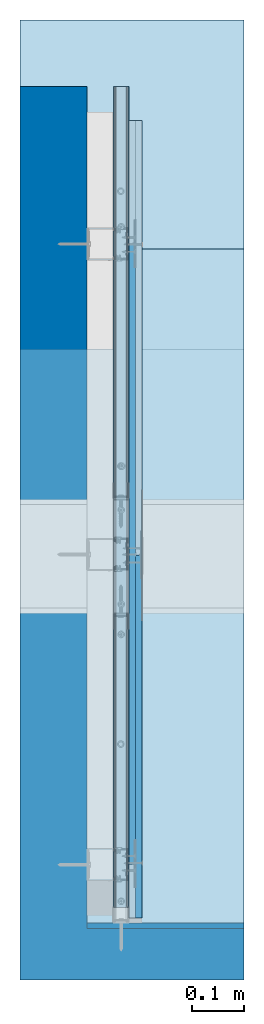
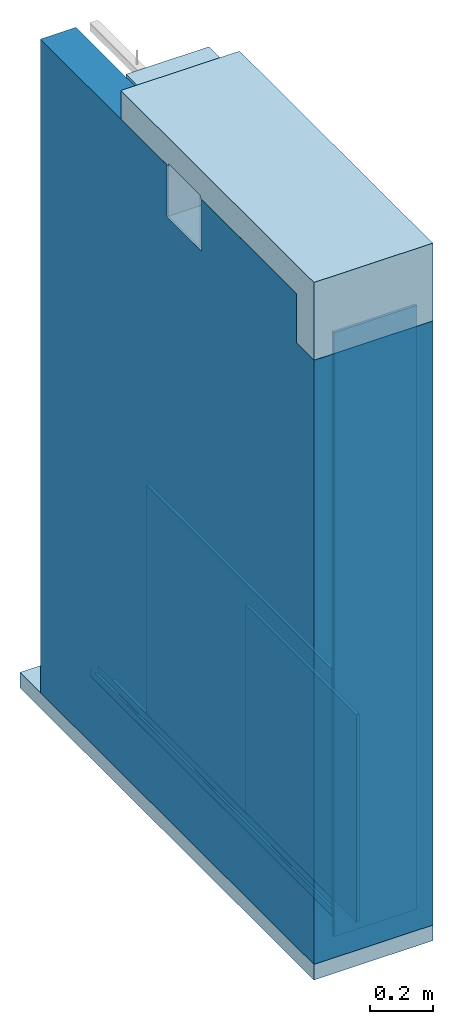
# One storey, part 1 of 67: 7 walls, 3 slabs.
"""IFC2X3 building model written with IfcOpenShell, lengths in millimetres."""

from ifc_helpers import new_model, si_unit, frame, origin_with_axes, place, context, subcontext, project, spatial, faceted_brep, material, type_object, element, save


model = new_model("IFC2X3")

# Units and contexts
model_context = context("Model", 3, world=origin_with_axes())
body_context = subcontext(model_context, "Body", "Model", "MODEL_VIEW")
ifc_project = project(units=[si_unit("LENGTHUNIT", "METRE", prefix="MILLI"), si_unit("AREAUNIT", "SQUARE_METRE"), si_unit("VOLUMEUNIT", "CUBIC_METRE")], contexts=[model_context])

# Site, building, storey
site_placement = place(None, frame((2152.14102611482, 674.9749105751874, 57.61556563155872), z_axis=(0.0, 0.0, 1.0), x_axis=(-1.1102230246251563e-16, 1.0, 0.0)))
site = spatial("IfcSite", under=ifc_project, at=site_placement, Name="Default Site", CompositionType="ELEMENT")
building_placement = place(site_placement, origin_with_axes())
building = spatial("IfcBuilding", under=site, at=building_placement, Name="Default Building", CompositionType="ELEMENT")
storey_placement = place(building_placement, origin_with_axes())
storey = spatial("IfcBuildingStorey", under=building, at=storey_placement, Name="Default Building Storey", CompositionType="ELEMENT", Elevation=57.61556563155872)

# Slabs
ifc_material_1 = material(Name="Concrete_02_1K")
slab_type_1 = type_object("IfcSlabType", Name="Beton", PredefinedType="FLOOR")
slab_1_placement = place(storey_placement, frame((3761.1571697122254, 2049.141026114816, -50.615566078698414), z_axis=(0.0, 0.0, 1.0), x_axis=(1.0, 0.0, 0.0)))
element("IfcSlab", 1, at=slab_1_placement, inside=storey, type_object=slab_type_1, material=ifc_material_1, Name="Beton", context=body_context, shape_type="Brep", body=[
    faceted_brep([(110.0000167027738, 103.00000000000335, -6.999999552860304), (110.0000167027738, 103.00000000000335, 52.99959201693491), (110.0000167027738, -330.0000000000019, 52.99959201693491), (110.0000167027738, -330.0000000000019, -6.999999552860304), (-1746.1320802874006, 103.00000000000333, 52.99959201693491), (-1746.1320802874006, 103.00000000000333, -6.999999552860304), (-1746.1320802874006, -330.00000000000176, -6.999999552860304), (-1746.1320802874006, -330.00000000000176, 52.99959201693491)], [[[0, 1, 2, 3]], [[4, 5, 6, 7]], [[1, 0, 5, 4]], [[2, 1, 4, 7]], [[3, 2, 7, 6]], [[0, 3, 6, 5]]]),
])
ifc_material_2 = material(Name="M04_Stone_Frost")
slab_type_2 = type_object("IfcSlabType", Name="Strop#2", PredefinedType="FLOOR")
slab_2_placement = place(storey_placement, frame((3683.040564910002, 2049.141026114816, 2517.3944339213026), z_axis=(0.0, 0.0, 1.0), x_axis=(1.0, 0.0, 0.0)))
element("IfcSlab", 2, at=slab_2_placement, inside=storey, type_object=slab_type_2, material=ifc_material_2, Name="Strop", context=body_context, shape_type="Brep", body=[
    faceted_brep([(-254.99998329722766, -27.000143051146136, 3.000000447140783), (-254.99998329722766, -27.000143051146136, 13.000000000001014), (-254.99998329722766, -330.0000000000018, 12.99999999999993), (-254.99998329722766, -330.0000000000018, 3.0000004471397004), (-1558.0154763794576, -27.000143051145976, 12.99999999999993), (-949.0154759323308, -27.000143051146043, 13.00000000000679), (-949.0154759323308, -27.000143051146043, 3.0000004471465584), (-1558.0154763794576, -27.000143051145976, 3.0000004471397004), (-1558.0154763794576, -27.000143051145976, -186.99999955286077), (-1568.0154759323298, -27.000143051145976, -186.99999955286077), (-1568.0154759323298, -27.000143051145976, 3.0000004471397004), (-1568.0154759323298, -27.000143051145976, 12.99999999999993), (-748.9999832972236, -27.000143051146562, 13.000000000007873), (-748.9999832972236, -330.00000000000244, 12.99999999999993), (-949.0154759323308, -330.0000000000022, 3.0000004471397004), (-1558.0154763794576, -330.00000000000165, 3.0000004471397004), (-1568.0154759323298, -330.00000000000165, 3.0000004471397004), (-1568.0154759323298, -330.00000000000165, 12.99999999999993), (-1558.0154763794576, -330.00000000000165, 12.99999999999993), (-1558.0154763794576, -330.00000000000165, -186.99999955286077), (-1568.0154759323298, -330.00000000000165, -186.99999955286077), (-949.0154759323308, -330.0000000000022, 12.99999999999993), (-748.9999832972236, -330.0000000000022, 3.0000004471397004), (-748.9999832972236, -27.000143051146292, 3.0000004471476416)], [[[0, 1, 2, 3]], [[4, 5, 6, 7, 8, 9, 10, 11]], [[1, 12, 13, 2]], [[7, 6, 14, 15]], [[11, 10, 16, 17]], [[18, 4, 11, 17]], [[8, 19, 20, 9]], [[7, 15, 19, 8]], [[16, 10, 9, 20]], [[15, 14, 21, 18, 17, 16, 20, 19]], [[2, 13, 22, 3]], [[22, 13, 12, 23]], [[21, 14, 6, 5]], [[21, 5, 4, 18]], [[22, 23, 0, 3]], [[0, 23, 12, 1]]]),
])
slab_type_3 = type_object("IfcSlabType", Name="Strop#3", PredefinedType="FLOOR")
slab_3_placement = place(storey_placement, frame((3683.040564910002, 2049.141026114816, 2527.3944334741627), z_axis=(0.0, 0.0, 1.0), x_axis=(1.0, 0.0, 0.0)))
element("IfcSlab", 3, at=slab_3_placement, inside=storey, type_object=slab_type_3, material=ifc_material_1, Name="Strop", context=body_context, shape_type="Brep", body=[
    faceted_brep([(-447.9999832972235, 103.00000000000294, -6.99999910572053), (-447.9999832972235, 103.00000000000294, 103.00000000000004), (-447.9999832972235, -330.0000000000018, 103.00000000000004), (-447.9999832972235, -330.0000000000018, 3.0000004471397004), (-447.9999832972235, -27.00014305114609, 3.0000004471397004), (-447.9999832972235, -27.00014305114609, -6.99999910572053), (-748.9999832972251, 103.00000000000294, -6.99999910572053), (-748.9999832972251, 103.00000000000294, 3.0000004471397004), (-949.0154759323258, 103.00000000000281, 3.0000004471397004), (-949.0154759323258, 103.00000000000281, -6.999999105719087), (-1558.0154763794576, 103.0000000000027, -6.999999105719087), (-1558.0154763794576, 103.0000000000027, -196.99999910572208), (-1668.0154754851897, 103.00000000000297, -196.99999910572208), (-1668.0154754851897, 103.00000000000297, 103.00000000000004), (-1668.0154754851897, -330.0000000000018, 103.00000000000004), (-1668.0154754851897, -330.0000000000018, -196.99999910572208), (-1568.0154759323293, -330.0000000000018, -196.99999910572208), (-1568.0154759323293, -330.0000000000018, 3.0000004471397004), (-1568.0154759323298, -27.000143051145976, -196.999999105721), (-1558.0154763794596, -27.000143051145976, -196.999999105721), (-1568.0154759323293, -27.000143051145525, 3.0000004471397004), (-949.0154759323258, -27.000143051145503, 3.0000004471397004), (-748.9999832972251, -27.00014305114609, 3.0000004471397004), (-748.9999832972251, -27.00014305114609, -6.99999910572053), (-949.0154759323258, -27.000143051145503, -6.999999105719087), (-1558.0154763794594, -27.000143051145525, -6.999999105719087), (-1568.0154759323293, -27.000143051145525, -6.999999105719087)], [[[0, 1, 2, 3, 4, 5]], [[1, 0, 6, 7, 8, 9, 10, 11, 12, 13]], [[1, 13, 14, 2]], [[2, 14, 15, 16, 17, 3]], [[13, 12, 15, 14]], [[18, 16, 15, 12, 11, 19]], [[17, 20, 21, 8, 7, 22, 4, 3]], [[0, 5, 23, 6]], [[4, 22, 23, 5]], [[22, 7, 6, 23]], [[10, 9, 24, 25]], [[8, 21, 24, 9]], [[21, 20, 26, 25, 24]], [[16, 18, 26, 20, 17]], [[10, 25, 19, 11]], [[26, 18, 19, 25]]]),
])

# Walls
ifc_material_3 = material(Name="Undefined7")
wall_type_1 = type_object("IfcWallType", Name="Płyta gipsowo-kartonowa RIGIPS PRO (4PRO™)#4", PredefinedType="NOTDEFINED")
wall_1_placement = place(storey_placement, frame((2835.5063704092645, 1928.6800775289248, 1062.3900398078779), z_axis=(0.0, 0.0, 1.0), x_axis=(-1.0, 6.389333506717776e-13, 0.0)))
element("IfcWall", 4, at=wall_1_placement, inside=storey, type_object=wall_type_1, material=ifc_material_3, Name="Płyta gipsowo-kartonowa RIGIPS PRO (4PRO™)", context=body_context, shape_type="Brep", body=[
    faceted_brep([(700.4768892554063, 12.500000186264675, -250.0), (700.4768892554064, -3.9046383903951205e-10, -250.0), (700.4768892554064, -3.872152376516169e-10, -1050.001621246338), (700.4768892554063, 12.500000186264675, -1050.001621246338), (45.00000178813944, 12.500000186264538, -250.0), (41.000001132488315, 11.500000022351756, -250.0), (1.0000000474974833, 11.500000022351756, -250.0), (0.7411809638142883, 11.465925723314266, -250.0), (0.5000000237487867, 11.366025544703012, -250.0), (0.2928932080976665, 11.20710652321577, -250.0), (0.13397459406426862, 10.999999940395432, -250.0), (0.03407417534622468, 10.758819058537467, -250.0), (-2.887645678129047e-12, 10.499999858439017, -250.0), (0.0, 0.0, -250.0), (45.00000178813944, 12.500000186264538, -1050.001621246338), (41.000001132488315, 11.500000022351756, -1050.001621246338), (1.0000000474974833, 11.500000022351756, -1050.001621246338), (0.7411809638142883, 11.465925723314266, -1050.001621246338), (0.5000000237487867, 11.366025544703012, -1050.001621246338), (0.2928932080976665, 11.20710652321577, -1050.001621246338), (0.13397459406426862, 10.999999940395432, -1050.001621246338), (0.03407417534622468, 10.758819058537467, -1050.001621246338), (-2.887645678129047e-12, 10.499999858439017, -1050.001621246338), (0.0, 0.0, -1050.001621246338)], [[[0, 1, 2, 3]], [[0, 4, 5, 6, 7, 8, 9, 10, 11, 12, 13, 1]], [[3, 14, 4, 0]], [[5, 4, 14, 15]], [[6, 5, 15, 16]], [[7, 6, 16, 17]], [[8, 7, 17, 18]], [[9, 8, 18, 19]], [[10, 9, 19, 20]], [[11, 10, 20, 21]], [[12, 11, 21, 22]], [[13, 12, 22, 23]], [[2, 1, 13, 23]], [[14, 3, 2, 23, 22, 21, 20, 19, 18, 17, 16, 15]]]),
])
ifc_material_4 = material(Name="Undefined9")
wall_type_2 = type_object("IfcWallType", Name="Profil RIGIPS UD 30 GypSerra®/Ultrastil®", PredefinedType="NOTDEFINED")
wall_2_placement = place(storey_placement, frame((5048.786508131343, 3440.7922799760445, -108.59097421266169), z_axis=(-6.092619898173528e-14, -6.85815824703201e-13, 1.0), x_axis=(-1.0, -2.013442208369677e-15, -6.092619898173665e-14)))
element("IfcWall", 5, at=wall_2_placement, inside=storey, type_object=wall_type_2, material=ifc_material_4, Name="Profil RIGIPS UD 30 GypSerra®/Ultrastil®", context=body_context, shape_type="Brep", body=[
    faceted_brep([(2893.189556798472, 1469.9159860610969, 140.97499847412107), (2893.189556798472, 1469.366073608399, 140.97499847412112), (2893.18955679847, 1469.3660736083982, 114.77500200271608), (2893.1895567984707, 1469.3758487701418, 114.6498546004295), (2893.1895567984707, 1469.405174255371, 114.52778428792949), (2893.1895567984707, 1469.4532155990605, 114.4118085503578), (2893.1895567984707, 1469.518780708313, 114.30477350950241), (2893.1895567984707, 1469.6003198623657, 114.20931667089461), (2893.1895567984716, 1469.6958065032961, 114.1277849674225), (2893.1895567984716, 1469.8028564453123, 114.06219750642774), (2893.1895567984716, 1469.9188470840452, 114.01415616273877), (2893.1895567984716, 1470.0409173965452, 113.9848530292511), (2893.1895567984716, 1470.1660871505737, 113.97500336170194), (2893.1895567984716, 1472.0159769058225, 113.97500336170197), (2893.1895567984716, 1472.1635580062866, 113.98871988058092), (2893.1895567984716, 1472.3060131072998, 114.02940750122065), (2893.1895567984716, 1472.4385738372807, 114.09565806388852), (2893.1895567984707, 1472.5565910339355, 114.18521404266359), (2893.1895567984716, 1472.656011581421, 114.29499834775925), (2893.1895567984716, 1473.6760854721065, 115.65499752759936), (2893.1895567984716, 1473.7755060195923, 115.76478183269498), (2893.1895567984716, 1473.8935232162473, 115.85433781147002), (2893.189556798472, 1474.0260839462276, 115.92059582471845), (2893.189556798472, 1474.1685390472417, 115.96128344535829), (2893.189556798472, 1474.316000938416, 115.97499996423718), (2893.189556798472, 1493.6159849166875, 115.97499996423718), (2893.189556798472, 1493.7635660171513, 115.96128344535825), (2893.189556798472, 1493.9060211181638, 115.92059582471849), (2893.189556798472, 1494.0385818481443, 115.85433781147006), (2893.189556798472, 1494.1565990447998, 115.76478183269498), (2893.189556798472, 1494.2560195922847, 115.65499752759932), (2893.1895567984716, 1495.2759742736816, 114.29499834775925), (2893.1895567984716, 1495.3755140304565, 114.18521404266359), (2893.1895567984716, 1495.4935312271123, 114.09565806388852), (2893.1895567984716, 1495.6260919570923, 114.02940750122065), (2893.1895567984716, 1495.7685470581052, 113.98871988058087), (2893.1895567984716, 1495.9160089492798, 113.97500336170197), (2893.1895567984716, 1497.7660179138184, 113.97500336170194), (2893.1895567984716, 1497.8911876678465, 113.98485302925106), (2893.1895567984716, 1498.0132579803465, 114.01415616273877), (2893.1895567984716, 1498.1292486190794, 114.06219750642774), (2893.1895567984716, 1498.2362985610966, 114.12778496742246), (2893.1895567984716, 1498.3316659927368, 114.2093166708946), (2893.1895567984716, 1498.4132051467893, 114.30477350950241), (2893.1895567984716, 1498.4788894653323, 114.4118085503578), (2893.1895567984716, 1498.5269308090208, 114.5277842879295), (2893.1895567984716, 1498.5561370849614, 114.6498546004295), (2893.189556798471, 1498.5660314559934, 114.77500200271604), (2893.189556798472, 1498.5660314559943, 140.97499847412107), (2893.189556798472, 1498.0159997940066, 140.97499847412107), (2893.189556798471, 1498.0159997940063, 114.77500200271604), (2893.1895567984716, 1498.012900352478, 114.73589390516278), (2893.1895567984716, 1498.0038404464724, 114.69774693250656), (2893.1895567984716, 1497.9888200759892, 114.66149985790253), (2893.1895567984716, 1497.9683160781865, 114.62805420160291), (2893.1895567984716, 1497.942805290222, 114.59822207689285), (2893.1895567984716, 1497.9130029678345, 114.57274854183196), (2893.1895567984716, 1497.8795051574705, 114.55225199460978), (2893.1895567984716, 1497.843265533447, 114.53723907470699), (2893.1895567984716, 1497.8051185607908, 114.5280748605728), (2893.1895567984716, 1497.7660179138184, 114.52499777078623), (2893.1895567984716, 1495.9160089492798, 114.52499777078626), (2893.1895567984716, 1495.8698749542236, 114.52928930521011), (2893.1895567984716, 1495.825409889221, 114.54199999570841), (2893.1895567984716, 1495.784044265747, 114.56270515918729), (2893.1895567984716, 1495.747089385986, 114.59068953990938), (2893.1895567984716, 1495.715975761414, 114.6249994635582), (2893.189556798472, 1494.6960210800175, 115.98499864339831), (2893.189556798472, 1494.5281744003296, 116.17025732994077), (2893.1895567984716, 1494.3289756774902, 116.32138490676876), (2893.1895567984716, 1494.1053390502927, 116.43319576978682), (2893.1895567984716, 1493.8650131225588, 116.50185286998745), (2893.1895567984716, 1493.6159849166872, 116.52500182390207), (2893.189556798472, 1474.3160009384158, 116.52500182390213), (2893.189556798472, 1474.067091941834, 116.50185286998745), (2893.189556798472, 1473.8266468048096, 116.43319576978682), (2893.189556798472, 1473.6031293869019, 116.32138490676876), (2893.189556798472, 1473.4039306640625, 116.17025732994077), (2893.189556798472, 1473.2360839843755, 115.98499864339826), (2893.1895567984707, 1472.2160100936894, 114.6249994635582), (2893.1895567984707, 1472.1848964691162, 114.59068953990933), (2893.1895567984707, 1472.148060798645, 114.56270515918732), (2893.1895567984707, 1472.1066951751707, 114.54199999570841), (2893.1895567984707, 1472.0621109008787, 114.52928930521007), (2893.1895567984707, 1472.0159769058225, 114.52499777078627), (2893.1895567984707, 1470.1660871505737, 114.52499777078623), (2893.1895567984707, 1470.1268672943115, 114.5280748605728), (2893.1895567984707, 1470.088720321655, 114.53723907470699), (2893.1895567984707, 1470.0524806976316, 114.55225199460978), (2893.1895567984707, 1470.0191020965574, 114.57274854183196), (2893.1895567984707, 1469.9892997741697, 114.59822207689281), (2893.1895567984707, 1469.9637889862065, 114.6280542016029), (2893.1895567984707, 1469.943284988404, 114.66149985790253), (2893.1895567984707, 1469.9282646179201, 114.69774693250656), (2893.1895567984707, 1469.9190855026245, 114.73589390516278), (2893.18955679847, 1469.915986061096, 114.77500200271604), (1306.0656785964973, 1469.3660736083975, 114.77500200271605), (1306.0656785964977, 1469.3660736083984, 140.9749984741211), (1306.0656785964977, 1469.9159860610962, 140.97499847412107), (1306.0656785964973, 1469.9159860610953, 114.77500200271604), (1306.0656785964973, 1469.9190855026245, 114.73589390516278), (1306.0656785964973, 1469.9282646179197, 114.69774693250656), (1306.0656785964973, 1469.9432849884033, 114.66149985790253), (1306.0656785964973, 1469.963788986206, 114.62805420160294), (1306.0656785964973, 1469.989299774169, 114.59822207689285), (1306.0656785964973, 1470.0191020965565, 114.57274854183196), (1306.0656785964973, 1470.0524806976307, 114.55225199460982), (1306.0656785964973, 1470.0887203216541, 114.53723907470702), (1306.0656785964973, 1470.1268672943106, 114.52807486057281), (1306.0656785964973, 1470.1660871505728, 114.5249977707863), (1306.0656785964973, 1472.0159769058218, 114.52499777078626), (1306.0656785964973, 1472.062110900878, 114.52928930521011), (1306.0656785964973, 1472.10669517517, 114.54199999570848), (1306.0656785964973, 1472.148060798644, 114.56270515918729), (1306.0656785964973, 1472.1848964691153, 114.59068953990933), (1306.0656785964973, 1472.216010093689, 114.6249994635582), (1306.0656785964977, 1473.236083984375, 115.98499864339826), (1306.0656785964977, 1473.4039306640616, 116.17025732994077), (1306.0656785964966, 1473.6031293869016, 116.3213849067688), (1306.0656785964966, 1473.8266468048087, 116.43319576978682), (1306.0656785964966, 1474.0670919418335, 116.50185286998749), (1306.0656785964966, 1474.3160009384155, 116.52500182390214), (1306.0656785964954, 1493.615984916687, 116.52500182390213), (1306.0656785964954, 1493.8650131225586, 116.50185286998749), (1306.0656785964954, 1494.105339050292, 116.43319576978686), (1306.0656785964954, 1494.32897567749, 116.3213849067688), (1306.0656785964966, 1494.5281744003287, 116.17025732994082), (1306.0656785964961, 1494.696021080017, 115.98499864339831), (1306.0656785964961, 1495.7159757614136, 114.62499946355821), (1306.0656785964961, 1495.7470893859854, 114.59068953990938), (1306.0656785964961, 1495.7840442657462, 114.56270515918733), (1306.0656785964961, 1495.8254098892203, 114.54199999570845), (1306.0656785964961, 1495.8698749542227, 114.52928930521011), (1306.0656785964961, 1495.9160089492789, 114.5249977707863), (1306.0656785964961, 1497.7660179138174, 114.52499777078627), (1306.0656785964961, 1497.80511856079, 114.5280748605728), (1306.0656785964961, 1497.8432655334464, 114.53723907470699), (1306.0656785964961, 1497.8795051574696, 114.55225199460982), (1306.0656785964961, 1497.9130029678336, 114.57274854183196), (1306.0656785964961, 1497.9428052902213, 114.59822207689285), (1306.0656785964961, 1497.968316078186, 114.62805420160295), (1306.0656785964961, 1497.9888200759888, 114.66149985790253), (1306.0656785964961, 1498.0038404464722, 114.69774693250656), (1306.0656785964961, 1498.0129003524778, 114.73589390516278), (1306.0656785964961, 1498.0159997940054, 114.77500200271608), (1306.0656785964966, 1498.0159997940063, 140.97499847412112), (1306.0656785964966, 1498.5660314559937, 140.97499847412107), (1306.0656785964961, 1498.5660314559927, 114.77500200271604), (1306.0656785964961, 1498.556137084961, 114.64985460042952), (1306.0656785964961, 1498.5269308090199, 114.52778428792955), (1306.0656785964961, 1498.478889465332, 114.41180855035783), (1306.0656785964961, 1498.4132051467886, 114.30477350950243), (1306.0656785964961, 1498.3316659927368, 114.20931667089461), (1306.0656785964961, 1498.236298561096, 114.12778496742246), (1306.0656785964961, 1498.1292486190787, 114.06219750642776), (1306.0656785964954, 1498.0132579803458, 114.01415616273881), (1306.0656785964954, 1497.8911876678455, 113.9848530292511), (1306.0656785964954, 1497.7660179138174, 113.97500336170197), (1306.0656785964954, 1495.9160089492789, 113.97500336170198), (1306.0656785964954, 1495.7685470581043, 113.98871988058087), (1306.0656785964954, 1495.6260919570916, 114.02940750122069), (1306.0656785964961, 1495.4935312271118, 114.09565806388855), (1306.0656785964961, 1495.3755140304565, 114.18521404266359), (1306.0656785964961, 1495.275974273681, 114.29499834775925), (1306.0656785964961, 1494.2560195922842, 115.65499752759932), (1306.0656785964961, 1494.1565990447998, 115.76478183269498), (1306.0656785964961, 1494.0385818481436, 115.85433781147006), (1306.0656785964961, 1493.9060211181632, 115.92059582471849), (1306.0656785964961, 1493.7635660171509, 115.96128344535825), (1306.0656785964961, 1493.615984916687, 115.9749999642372), (1306.0656785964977, 1474.3160009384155, 115.9749999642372), (1306.0656785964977, 1474.1685390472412, 115.96128344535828), (1306.0656785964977, 1474.0260839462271, 115.92059582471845), (1306.0656785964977, 1473.8935232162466, 115.85433781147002), (1306.0656785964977, 1473.7755060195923, 115.764781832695), (1306.0656785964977, 1473.676085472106, 115.65499752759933), (1306.0656785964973, 1472.65601158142, 114.29499834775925), (1306.0656785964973, 1472.5565910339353, 114.18521404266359), (1306.0656785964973, 1472.43857383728, 114.09565806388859), (1306.0656785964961, 1472.306013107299, 114.02940750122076), (1306.0656785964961, 1472.1635580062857, 113.98871988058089), (1306.0656785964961, 1472.0159769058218, 113.97500336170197), (1306.0656785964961, 1470.1660871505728, 113.97500336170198), (1306.0656785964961, 1470.0409173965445, 113.98485302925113), (1306.0656785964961, 1469.9188470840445, 114.01415616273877), (1306.0656785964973, 1469.8028564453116, 114.06219750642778), (1306.0656785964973, 1469.695806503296, 114.12778496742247), (1306.0656785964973, 1469.6003198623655, 114.20931667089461), (1306.0656785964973, 1469.5187807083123, 114.30477350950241), (1306.0656785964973, 1469.45321559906, 114.4118085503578), (1306.0656785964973, 1469.4051742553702, 114.52778428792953), (1306.0656785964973, 1469.3758487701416, 114.64985460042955)], [[[0, 1, 2, 3, 4, 5, 6, 7, 8, 9, 10, 11, 12, 13, 14, 15, 16, 17, 18, 19, 20, 21, 22, 23, 24, 25, 26, 27, 28, 29, 30, 31, 32, 33, 34, 35, 36, 37, 38, 39, 40, 41, 42, 43, 44, 45, 46, 47, 48, 49, 50, 51, 52, 53, 54, 55, 56, 57, 58, 59, 60, 61, 62, 63, 64, 65, 66, 67, 68, 69, 70, 71, 72, 73, 74, 75, 76, 77, 78, 79, 80, 81, 82, 83, 84, 85, 86, 87, 88, 89, 90, 91, 92, 93, 94, 95]], [[96, 97, 98, 99, 100, 101, 102, 103, 104, 105, 106, 107, 108, 109, 110, 111, 112, 113, 114, 115, 116, 117, 118, 119, 120, 121, 122, 123, 124, 125, 126, 127, 128, 129, 130, 131, 132, 133, 134, 135, 136, 137, 138, 139, 140, 141, 142, 143, 144, 145, 146, 147, 148, 149, 150, 151, 152, 153, 154, 155, 156, 157, 158, 159, 160, 161, 162, 163, 164, 165, 166, 167, 168, 169, 170, 171, 172, 173, 174, 175, 176, 177, 178, 179, 180, 181, 182, 183, 184, 185, 186, 187, 188, 189, 190, 191]], [[23, 171, 170, 24]], [[22, 172, 171, 23]], [[175, 174, 20, 19]], [[172, 22, 21, 173]], [[20, 174, 173, 21]], [[24, 170, 169, 25]], [[29, 165, 164, 30]], [[165, 29, 28, 166]], [[27, 167, 166, 28]], [[169, 168, 26, 25]], [[26, 168, 167, 27]], [[30, 164, 163, 31]], [[35, 159, 158, 36]], [[34, 160, 159, 35]], [[33, 32, 162, 161]], [[161, 160, 34, 33]], [[163, 162, 32, 31]], [[36, 158, 157, 37]], [[46, 45, 149, 148]], [[148, 147, 47, 46]], [[44, 150, 149, 45]], [[43, 42, 152, 151]], [[151, 150, 44, 43]], [[41, 40, 154, 153]], [[153, 152, 42, 41]], [[39, 155, 154, 40]], [[38, 37, 157, 156]], [[156, 155, 39, 38]], [[47, 147, 146, 48]], [[48, 146, 145, 49]], [[49, 145, 144, 50]], [[134, 60, 59, 135]], [[58, 136, 135, 59]], [[57, 137, 136, 58]], [[137, 57, 56, 138]], [[55, 139, 138, 56]], [[139, 55, 54, 140]], [[53, 141, 140, 54]], [[52, 142, 141, 53]], [[142, 52, 51, 143]], [[50, 144, 143, 51]], [[60, 134, 133, 61]], [[65, 129, 128, 66]], [[129, 65, 64, 130]], [[63, 131, 130, 64]], [[133, 132, 62, 61]], [[62, 132, 131, 63]], [[66, 128, 127, 67]], [[71, 123, 122, 72]], [[70, 69, 125, 124]], [[124, 123, 71, 70]], [[68, 126, 125, 69]], [[127, 126, 68, 67]], [[72, 122, 121, 73]], [[77, 117, 116, 78]], [[76, 118, 117, 77]], [[75, 74, 120, 119]], [[119, 118, 76, 75]], [[121, 120, 74, 73]], [[78, 116, 115, 79]], [[83, 111, 110, 84]], [[82, 112, 111, 83]], [[115, 114, 80, 79]], [[112, 82, 81, 113]], [[80, 114, 113, 81]], [[84, 110, 109, 85]], [[99, 95, 94, 100]], [[93, 101, 100, 94]], [[92, 102, 101, 93]], [[102, 92, 91, 103]], [[90, 104, 103, 91]], [[104, 90, 89, 105]], [[88, 106, 105, 89]], [[87, 107, 106, 88]], [[107, 87, 86, 108]], [[85, 109, 108, 86]], [[95, 99, 98, 0]], [[0, 98, 97, 1]], [[1, 97, 96, 2]], [[11, 10, 184, 183]], [[183, 182, 12, 11]], [[9, 185, 184, 10]], [[6, 5, 189, 188]], [[7, 6, 188, 187]], [[8, 7, 187, 186]], [[186, 185, 9, 8]], [[4, 190, 189, 5]], [[3, 2, 96, 191]], [[191, 190, 4, 3]], [[12, 182, 181, 13]], [[17, 177, 176, 18]], [[16, 15, 179, 178]], [[178, 177, 17, 16]], [[14, 180, 179, 15]], [[181, 180, 14, 13]], [[18, 176, 175, 19]]]),
])
ifc_material_5 = material(Name="Undefined13")
wall_type_3 = type_object("IfcWallType", Name="Taśma uszczelniająca piankowa RIGIPS#3", PredefinedType="NOTDEFINED")
wall_3_placement = place(storey_placement, frame((5610.165077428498, 3440.792279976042, -108.59097421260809), z_axis=(-6.09261989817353e-14, -6.85815824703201e-13, 1.0), x_axis=(-1.0, -2.0134422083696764e-15, -6.092619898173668e-14)))
element("IfcWall", 6, at=wall_3_placement, inside=storey, type_object=wall_type_3, material=ifc_material_5, Name="Taśma uszczelniająca piankowa RIGIPS", context=body_context, shape_type="Brep", body=[
    faceted_brep([(1867.1244382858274, 1498.965978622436, 113.97500336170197), (1867.1244382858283, 1498.9659786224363, 110.9749972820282), (1867.1244382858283, 1468.966007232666, 110.9749972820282), (1867.1244382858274, 1468.9660072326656, 113.97500336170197), (3487.5264937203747, 1498.9659786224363, 110.9749972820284), (3487.5264937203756, 1498.965978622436, 113.97500336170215), (3487.5264937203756, 1468.9660072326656, 113.97500336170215), (3487.5264937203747, 1468.9660072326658, 110.9749972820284)], [[[0, 1, 2, 3]], [[4, 5, 6, 7]], [[5, 0, 3, 6]], [[6, 3, 2, 7]], [[7, 2, 1, 4]], [[4, 1, 0, 5]]]),
])
wall_type_4 = type_object("IfcWallType", Name="Płyta gipsowo-kartonowa RIGIPS PRO (4PRO™)#2", PredefinedType="NOTDEFINED")
wall_4_placement = place(storey_placement, frame((2222.429648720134, 1941.1800775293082, 1162.3900398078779), z_axis=(0.0, 0.0, 1.0), x_axis=(1.0, 0.0, 0.0)))
element("IfcWall", 7, at=wall_4_placement, inside=storey, type_object=wall_type_4, material=ifc_material_3, Name="Płyta gipsowo-kartonowa RIGIPS PRO (4PRO™)", context=body_context, shape_type="Brep", body=[
    faceted_brep([(1215.7750066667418, -10.758819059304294, -1150.001525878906), (1215.7750066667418, -10.758819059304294, -250.0), (1215.6751092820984, -10.99999994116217, -250.0), (1215.6751092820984, -10.99999994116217, -1150.001525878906), (1215.309017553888, -11.36602554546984, -1150.001525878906), (1215.516203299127, -11.207106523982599, -1150.001525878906), (1215.516203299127, -11.207106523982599, -250.0), (1215.309017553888, -11.36602554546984, -250.0), (1170.809024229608, -12.500000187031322, -1150.001525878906), (1174.8090919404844, -11.500000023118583, -1150.001525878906), (1174.8090919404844, -11.500000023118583, -250.0), (1170.809024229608, -12.500000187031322, -250.0), (1214.8090537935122, -11.500000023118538, -1150.001525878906), (1215.067857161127, -11.465925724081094, -1150.001525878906), (1215.067857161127, -11.465925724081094, -250.0), (1214.8090537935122, -11.500000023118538, -250.0), (1215.8091005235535, -10.499999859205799, -1150.001525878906), (1215.8091005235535, -10.499999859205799, -250.0), (1215.8091005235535, -7.668052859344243e-10, -1150.001525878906), (1215.8091005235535, -7.668052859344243e-10, -250.0), (60.96893029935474, -12.50000018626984, -1150.0015258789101), (60.96893029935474, -12.50000018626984, -250.00000000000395), (56.96892964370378, -11.500000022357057, -1150.0015258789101), (16.968928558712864, -11.500000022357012, -1150.0015258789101), (16.710109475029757, -11.465925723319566, -1150.0015258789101), (16.468928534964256, -11.366025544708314, -1150.0015258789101), (16.261821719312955, -11.207106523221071, -1150.0015258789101), (16.102903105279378, -10.999999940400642, -1150.0015258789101), (16.003002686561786, -10.758819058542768, -1150.0015258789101), (15.968928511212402, -10.499999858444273, -1150.0015258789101), (15.968928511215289, -5.278977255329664e-12, -1150.0015258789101), (16.968928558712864, -11.500000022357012, -250.00000000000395), (56.96892964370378, -11.500000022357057, -250.00000000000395), (15.968928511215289, -5.278977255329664e-12, -250.00000000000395), (15.968928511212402, -10.499999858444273, -250.00000000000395), (16.003002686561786, -10.758819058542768, -250.00000000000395), (16.102903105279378, -10.999999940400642, -250.00000000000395), (16.261821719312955, -11.207106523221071, -250.00000000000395), (16.468928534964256, -11.366025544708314, -250.00000000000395), (16.710109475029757, -11.465925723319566, -250.00000000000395)], [[[0, 1, 2, 3]], [[4, 5, 6, 7]], [[8, 9, 10, 11]], [[12, 13, 14, 15]], [[3, 2, 6, 5]], [[13, 4, 7, 14]], [[9, 12, 15, 10]], [[16, 17, 1, 0]], [[18, 19, 17, 16]], [[20, 8, 11, 21]], [[4, 13, 12, 9, 22, 23, 24, 25, 26, 27, 28, 29, 30, 18, 16, 0, 3, 5]], [[31, 32, 21, 11, 10, 15, 14, 7, 6, 2, 1, 17, 19, 33, 34, 35, 36, 37, 38, 39]], [[22, 9, 8, 20]], [[33, 19, 18, 30]], [[26, 25, 38, 37]], [[26, 37, 36, 27]], [[23, 22, 32, 31]], [[29, 34, 33, 30]], [[25, 24, 39, 38]], [[28, 35, 34, 29]], [[27, 36, 35, 28]], [[24, 23, 31, 39]], [[22, 20, 21, 32]]]),
])
wall_type_5 = type_object("IfcWallType", Name="Ściana#1", PredefinedType="NOTDEFINED")
wall_5_placement = place(storey_placement, frame((2128.025088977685, 2049.141026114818, 2536.3944176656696), z_axis=(-1.0, 7.216449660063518e-16, 8.326672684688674e-17), x_axis=(8.326672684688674e-17, -4.622231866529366e-32, 1.0)))
element("IfcWall", 8, at=wall_5_placement, inside=storey, type_object=wall_type_5, material=ifc_material_2, Name="Ściana", context=body_context, shape_type="Brep", body=[
    faceted_brep([(-205.99998329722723, -27.00014305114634, 3.0000004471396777), (-205.99998329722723, -27.00014305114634, 12.99999999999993), (-205.99998329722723, -330.0000000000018, 12.999999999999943), (-205.99998329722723, -330.0000000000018, 3.0000004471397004), (-2534.0103917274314, -27.00014305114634, 12.99999999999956), (-2534.0103917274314, -27.00014305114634, 3.0000004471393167), (-2534.0103917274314, -330.0000000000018, 3.0000004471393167), (-2534.0103917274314, -330.0000000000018, 12.99999999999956)], [[[0, 1, 2, 3]], [[4, 5, 6, 7]], [[1, 0, 5, 4]], [[2, 1, 4, 7]], [[3, 2, 7, 6]], [[0, 3, 6, 5]]]),
])
ifc_material_6 = material(Name="M03_Pewter_Shine")
wall_type_6 = type_object("IfcWallType", Name="Ściana#3", PredefinedType="NOTDEFINED")
wall_6_placement = place(storey_placement, frame((2118.0250894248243, 2049.141026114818, 2536.39441766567), z_axis=(-1.0, 7.216449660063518e-16, 8.326672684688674e-17), x_axis=(8.326672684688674e-17, -4.622231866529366e-32, 1.0)))
element("IfcWall", 9, at=wall_6_placement, inside=storey, type_object=wall_type_6, material=ifc_material_6, Name="Ściana", context=body_context, shape_type="Brep", body=[
    faceted_brep([(-205.9999832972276, 103.00000000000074, -6.999999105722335), (-205.9999832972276, 103.00000000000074, 102.99999999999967), (-205.9999832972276, -330.00000000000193, 103.00000000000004), (-205.9999832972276, -330.0000000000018, 3.0000004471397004), (-205.99998329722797, -27.000143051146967, 3.0000004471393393), (-205.99998329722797, -27.000143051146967, -6.999999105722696), (-2534.0103917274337, 103.00000000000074, 102.99999999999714), (-2534.0103917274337, 103.00000000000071, 3.000000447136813), (-2534.010391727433, -27.000143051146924, 3.0000004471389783), (-2534.0103917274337, -330.0000000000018, 3.000000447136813), (-2534.0103917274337, -330.00000000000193, 102.99999999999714), (-2534.010391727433, -27.00014305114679, -1625.0155268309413), (-2534.010391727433, 103.00000000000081, -1625.0155268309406), (-15.999983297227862, 103.00000000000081, -1625.0155268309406), (-15.999983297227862, -27.00014305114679, -1625.015526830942), (-15.999983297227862, -27.000143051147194, -826.0154917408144), (-215.99998329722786, -27.000143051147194, -826.0154917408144), (-215.99998329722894, -27.000143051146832, -605.9999995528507), (-15.999983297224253, -27.00014305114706, -605.9999995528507), (-15.999983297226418, -27.000143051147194, -6.999999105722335), (-15.999983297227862, 103.0000000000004, -826.0154917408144), (-15.999983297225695, 103.00000000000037, -6.999999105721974), (-15.999983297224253, 103.00000000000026, -605.9999995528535), (-215.99998329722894, 103.00000000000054, -605.9999995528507), (-215.99998329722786, 103.0000000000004, -826.0154917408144)], [[[0, 1, 2, 3, 4, 5]], [[6, 7, 8, 9, 10]], [[2, 1, 6, 10]], [[3, 2, 10, 9]], [[11, 12, 13, 14]], [[8, 7, 12, 11]], [[4, 8, 11, 14, 15, 16, 17, 18, 19, 5]], [[13, 20, 15, 14]], [[1, 0, 21, 22, 23, 24, 20, 13, 12, 7, 6]], [[24, 23, 17, 16]], [[15, 20, 24, 16]], [[19, 18, 22, 21]], [[17, 23, 22, 18]], [[0, 5, 19, 21]]]),
    faceted_brep([(-2534.0103917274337, -330.0000000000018, 3.000000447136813), (-2534.010391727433, -27.000143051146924, 3.0000004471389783), (-205.99998329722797, -27.000143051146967, 3.0000004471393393), (-205.9999832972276, -330.0000000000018, 3.0000004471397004)], [[[0, 1, 2, 3]]]),
])
ifc_material_7 = material(Name="Undefined5")
wall_type_7 = type_object("IfcWallType", Name="Masa szpachlowa konstrukcyjna RIGIPS#5", PredefinedType="NOTDEFINED")
wall_7_placement = place(storey_placement, frame((2372.718586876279, 1940.8262477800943, 2.3840259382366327), z_axis=(0.0, 0.0, 1.0), x_axis=(-1.0, -1.665334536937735e-16, 0.0)))
element("IfcWall", 10, at=wall_7_placement, inside=storey, type_object=wall_type_7, material=ifc_material_7, Name="Masa szpachlowa konstrukcyjna RIGIPS", context=body_context, shape_type="Brep", body=[
    faceted_brep([(237.68910572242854, 24.64617043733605, -5.639932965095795e-14), (237.68910572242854, -0.35000000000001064, -5.639932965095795e-14), (-1304.3220304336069, -0.3499999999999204, -5.639932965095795e-14), (-1304.3220304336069, 24.64617043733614, -5.639932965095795e-14), (237.68910572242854, -0.35000000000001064, 10.00439262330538), (-1304.3220304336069, -0.3499999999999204, 10.00439262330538), (237.68910572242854, 24.64617043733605, 10.00439262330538), (-1304.3220304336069, 24.64617043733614, 10.00439262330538)], [[[0, 1, 2, 3]], [[1, 4, 5, 2]], [[4, 6, 7, 5]], [[6, 0, 3, 7]], [[7, 3, 2, 5]], [[0, 6, 4, 1]]]),
])

save(model, "model.ifc")
